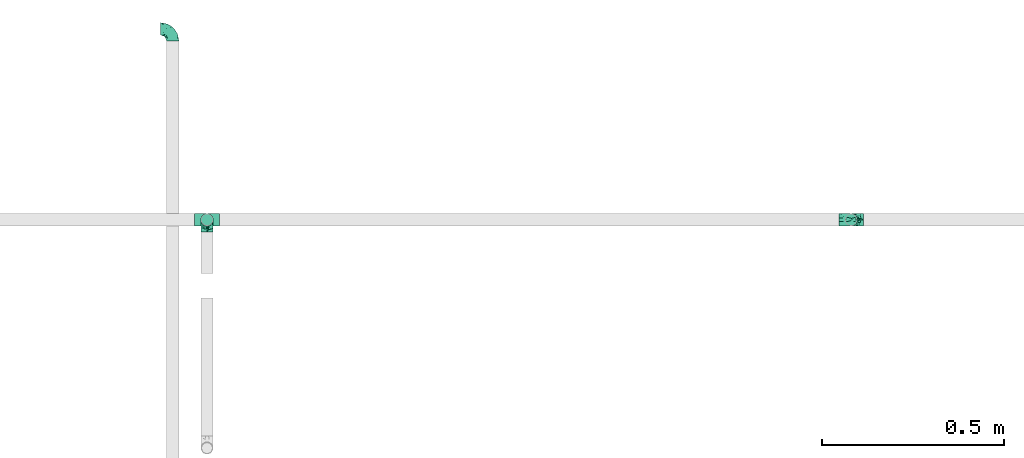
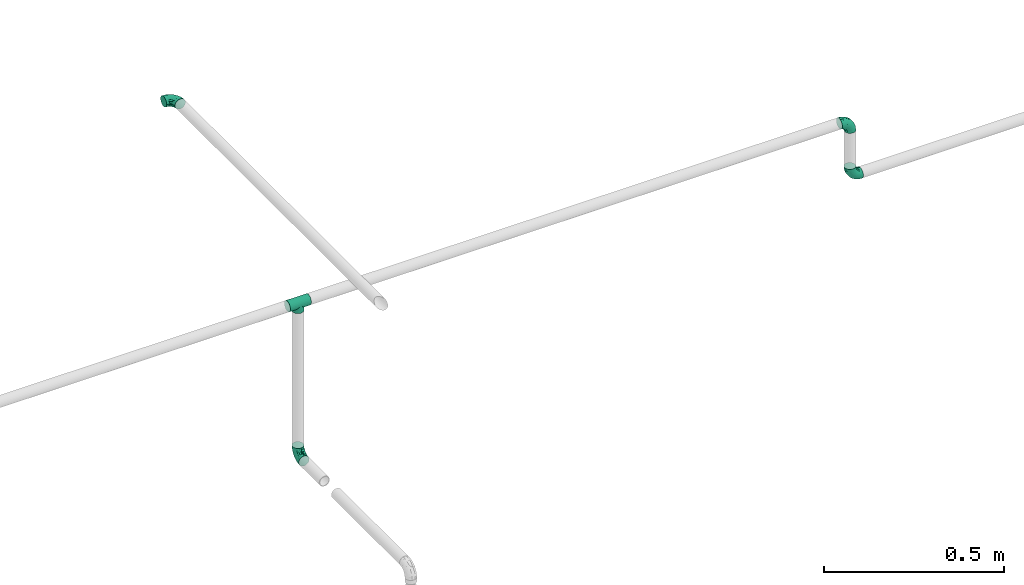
# One storey, part 15 of 17: 5 flow fittings.
"""IFC2X3 building model written with IfcOpenShell, lengths in millimetres."""

from ifc_helpers import new_model, entity, si_unit, converted_unit, derived_unit, direction, frame, origin_with_axes, place, context, subcontext, project, spatial, open_shell, surface_model, source, transform, mapped, type_object, element, save


model = new_model("IFC2X3")

# Units and contexts
model_context = context("Model", 3, precision=0.01, world=frame((0.0, 4.29681676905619e-09, 0.0)), true_north=direction((4.01073788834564e-13, 1.0)))
plan_context = context("Plan", 3, precision=0.01, world=frame((0.0, 4.29681676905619e-09, 0.0)), true_north=direction((4.01073788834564e-13, 1.0)))
body_context = subcontext(model_context, "Body", "Model", "MODEL_VIEW")
ifc_project = project(units=[converted_unit("PLANEANGLEUNIT", "DEGREE", entity("IfcPositiveLengthMeasure", 0.0174532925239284), si_unit("PLANEANGLEUNIT", "RADIAN"), dimensions=[0, 0, 0, 0, 0, 0, 0]), si_unit("AREAUNIT", "SQUARE_METRE"), si_unit("LENGTHUNIT", "METRE", prefix="MILLI"), si_unit("MASSUNIT", "GRAM", prefix="KILO"), si_unit("POWERUNIT", "WATT"), si_unit("PRESSUREUNIT", "PASCAL", prefix="KILO"), si_unit("FORCEUNIT", "NEWTON", prefix="KILO"), si_unit("ELECTRICVOLTAGEUNIT", "VOLT"), si_unit("ELECTRICCURRENTUNIT", "AMPERE"), si_unit("THERMODYNAMICTEMPERATUREUNIT", "DEGREE_CELSIUS"), si_unit("TIMEUNIT", "SECOND"), si_unit("VOLUMEUNIT", "CUBIC_METRE"), derived_unit("LINEARVELOCITYUNIT", [(si_unit("LENGTHUNIT", "METRE"), 1), (si_unit("TIMEUNIT", "SECOND"), -1)]), derived_unit("VOLUMETRICFLOWRATEUNIT", [(si_unit("VOLUMEUNIT", "CUBIC_METRE"), 1), (si_unit("TIMEUNIT", "SECOND"), -1)]), derived_unit("THERMALTRANSMITTANCEUNIT", [(si_unit("POWERUNIT", "WATT"), 1), (si_unit("THERMODYNAMICTEMPERATUREUNIT", "KELVIN"), -1), (si_unit("AREAUNIT", "SQUARE_METRE"), -1)]), derived_unit("SOUNDPRESSUREUNIT", [(si_unit("PRESSUREUNIT", "PASCAL"), 1)])], contexts=[model_context, plan_context])

# Site, building, storey
site_placement = place(None, frame((0.0, -4.29681676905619e-09, 0.0), z_axis=(0.0, 0.0, 1.0), x_axis=(1.0, 0.0, 0.0)))
site = spatial("IfcSite", under=ifc_project, at=site_placement, CompositionType="ELEMENT")
building_placement = place(site_placement, frame((0.0, 4.29681676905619e-09, 0.0), z_axis=(0.0, 0.0, 1.0), x_axis=(1.0, 0.0, 0.0)))
building = spatial("IfcBuilding", under=site, at=building_placement, Name="mc-building", CompositionType="ELEMENT")
storey_placement = place(building_placement, frame((0.0, 0.0, 204000.0), z_axis=(0.0, 0.0, 1.0), x_axis=(1.0, 0.0, 0.0)))
storey = spatial("IfcBuildingStorey", under=building, at=storey_placement, Name="Nivå D", CompositionType="ELEMENT", Elevation=204000.0)

# Flow fittings
pipe_fitting_type_1 = type_object("IfcPipeFittingType", Name="magi_pipe_fe_tee_centric_90_NOR", PredefinedType="JUNCTION")
shared_shape_1 = source(origin_with_axes(), body_context, "Body", "SurfaceModel", [
    surface_model("IfcShellBasedSurfaceModel", [(-33.8, 4.37404, -16.32415), (-33.8, 0.0, -16.9), (-33.8, 16.32415, -4.37404), (-33.8, 8.45, -14.63583), (-33.8, 11.9501, -11.9501), (-33.8, 14.63583, -8.45), (-33.8, -16.9, 0.0), (-33.8, -11.9501, -11.9501), (-33.8, -14.63583, -8.45), (-33.8, -8.45, -14.63583), (-33.8, -4.37404, -16.32415), (-33.8, -16.32415, -4.37404), (-33.8, 14.63583, 8.45), (-33.8, 16.32415, 4.37404), (-33.8, -8.45, 14.63583), (-33.8, 8.45, 14.63583), (-33.8, 11.9501, 11.9501), (-33.8, 4.37404, 16.32415), (-33.8, 0.0, 16.9), (-33.8, -11.9501, 11.9501), (-33.8, -14.63583, 8.45), (-33.8, -16.32415, 4.37404), (-33.8, -4.37404, 16.32415), (-33.8, 16.9, 0.0), (33.8, 4.37404, -16.32415), (33.8, -16.9, 0.0), (33.8, 0.0, -16.9), (33.8, 14.63583, -8.45), (33.8, 8.45, -14.63583), (33.8, 16.32415, -4.37404), (33.8, 11.9501, -11.9501), (33.8, -16.32415, 4.37404), (33.8, -8.45, -14.63583), (33.8, -4.37404, -16.32415), (33.8, -11.9501, -11.9501), (33.8, -14.63583, -8.45), (33.8, -16.32415, -4.37404), (33.8, 16.32415, 4.37404), (33.8, 8.45, 14.63583), (33.8, 14.63583, 8.45), (33.8, 11.9501, 11.9501), (33.8, -8.45, 14.63583), (33.8, 4.37404, 16.32415), (33.8, -14.63583, 8.45), (33.8, -11.9501, 11.9501), (33.8, 0.0, 16.9), (33.8, -4.37404, 16.32415), (33.8, 16.9, 0.0), (16.28698, -16.28698, 4.51047), (16.9, -16.9, 0.0), (14.62704, -14.62704, 8.4652), (9.47213, -9.47213, 13.99602), (12.26343, -12.26343, 11.62834), (-16.9, -16.9, 0.0), (-16.28698, -16.28698, 4.51047), (-14.62704, -14.62704, 8.4652), (-12.26343, -12.26343, 11.62834), (-9.47213, -9.47213, 13.99602), (-6.42894, -6.42894, 15.62942), (6.42894, -6.42894, 15.62942), (3.24522, -3.24522, 16.58549), (0.0, 0.0, 16.9), (-3.24522, -3.24522, 16.58549), (3.24522, -3.24522, -16.58549), (0.0, 0.0, -16.9), (-3.24522, -3.24522, -16.58549), (-6.42894, -6.42894, -15.62942), (6.42894, -6.42894, -15.62942), (9.47213, -9.47213, -13.99602), (12.26343, -12.26343, -11.62834), (14.62704, -14.62704, -8.4652), (16.28698, -16.28698, -4.51047), (-9.47213, -9.47213, -13.99602), (-12.26343, -12.26343, -11.62834), (-16.28698, -16.28698, -4.51047), (-14.62704, -14.62704, -8.4652), (4.37404, -25.35, -16.32415), (-16.9, -25.35, 0.0), (0.0, -25.35, -16.9), (14.63583, -25.35, -8.45), (8.45, -25.35, -14.63583), (16.32415, -25.35, -4.37404), (11.9501, -25.35, -11.9501), (-11.9501, -25.35, -11.9501), (-8.45, -25.35, -14.63583), (-4.37404, -25.35, -16.32415), (-14.63583, -25.35, -8.45), (-16.32415, -25.35, -4.37404), (16.9, -25.35, 0.0), (8.45, -25.35, 14.63583), (16.32415, -25.35, 4.37404), (14.63583, -25.35, 8.45), (-8.45, -25.35, 14.63583), (11.9501, -25.35, 11.9501), (4.37404, -25.35, 16.32415), (-16.32415, -25.35, 4.37404), (-11.9501, -25.35, 11.9501), (-14.63583, -25.35, 8.45), (0.0, -25.35, 16.9), (-4.37404, -25.35, 16.32415)], [open_shell([[[0, 1, 2]], [[3, 0, 4]], [[0, 2, 5]], [[4, 0, 5]], [[6, 2, 1]], [[7, 8, 9]], [[1, 10, 9]], [[11, 6, 8]], [[1, 9, 8]], [[1, 8, 6]], [[6, 12, 2]], [[12, 13, 2]], [[14, 12, 6]], [[12, 14, 15]], [[16, 12, 15]], [[17, 15, 18]], [[19, 14, 20]], [[21, 20, 14]], [[22, 18, 14]], [[14, 6, 21]], [[14, 18, 15]], [[23, 2, 13]], [[24, 25, 26]], [[27, 24, 28]], [[27, 29, 24]], [[27, 28, 30]], [[31, 25, 24]], [[26, 32, 33]], [[26, 34, 32]], [[35, 25, 36]], [[35, 34, 26]], [[25, 35, 26]], [[24, 29, 31]], [[29, 37, 38]], [[38, 37, 39]], [[38, 31, 29]], [[38, 39, 40]], [[41, 38, 42]], [[43, 41, 44]], [[41, 43, 31]], [[41, 45, 46]], [[41, 31, 38]], [[42, 45, 41]], [[29, 47, 37]], [[31, 43, 48]], [[25, 31, 49]], [[49, 31, 48]], [[43, 50, 48]], [[44, 41, 51]], [[50, 43, 52]], [[51, 52, 44]], [[52, 43, 44]], [[53, 54, 21]], [[53, 21, 6]], [[21, 54, 20]], [[54, 55, 20]], [[56, 57, 19]], [[19, 20, 56]], [[19, 57, 14]], [[56, 20, 55]], [[14, 57, 58]], [[51, 41, 59]], [[60, 45, 61]], [[59, 46, 60]], [[46, 59, 41]], [[60, 46, 45]], [[61, 45, 42]], [[39, 37, 13]], [[16, 38, 40]], [[12, 40, 39]], [[42, 38, 15]], [[23, 37, 47]], [[62, 61, 18]], [[62, 22, 58]], [[22, 62, 18]], [[58, 22, 14]], [[61, 17, 18]], [[42, 17, 61]], [[15, 17, 42]], [[15, 38, 16]], [[12, 16, 40]], [[13, 12, 39]], [[37, 23, 13]], [[5, 27, 30]], [[23, 47, 29]], [[30, 28, 3]], [[27, 2, 29]], [[26, 33, 63]], [[26, 64, 24]], [[64, 26, 63]], [[28, 24, 0]], [[64, 0, 24]], [[4, 30, 3]], [[2, 27, 5]], [[5, 30, 4]], [[2, 23, 29]], [[65, 66, 10]], [[1, 0, 64]], [[1, 65, 10]], [[66, 9, 10]], [[0, 3, 28]], [[1, 64, 65]], [[63, 33, 67]], [[32, 34, 68]], [[69, 68, 34]], [[35, 70, 69]], [[69, 34, 35]], [[32, 68, 67]], [[36, 25, 49]], [[36, 71, 35]], [[71, 36, 49]], [[35, 71, 70]], [[72, 9, 66]], [[72, 7, 9]], [[7, 72, 73]], [[7, 73, 8]], [[74, 53, 11]], [[75, 74, 8]], [[74, 11, 8]], [[11, 53, 6]], [[75, 8, 73]], [[32, 67, 33]], [[76, 77, 78]], [[79, 76, 80]], [[79, 81, 76]], [[79, 80, 82]], [[77, 76, 81]], [[78, 83, 84]], [[84, 85, 78]], [[86, 77, 87]], [[83, 78, 86]], [[77, 86, 78]], [[81, 88, 77]], [[89, 88, 90]], [[89, 90, 91]], [[92, 77, 89]], [[89, 91, 93]], [[92, 89, 94]], [[95, 96, 97]], [[96, 95, 92]], [[92, 98, 99]], [[95, 77, 92]], [[94, 98, 92]], [[89, 77, 88]], [[77, 95, 53]], [[54, 53, 95]], [[97, 96, 56]], [[96, 92, 57]], [[95, 97, 54]], [[58, 92, 99]], [[55, 54, 97]], [[56, 55, 97]], [[58, 57, 92]], [[98, 61, 62]], [[58, 99, 62]], [[56, 96, 57]], [[62, 99, 98]], [[94, 60, 98]], [[89, 59, 94]], [[91, 90, 48]], [[52, 93, 91]], [[93, 51, 89]], [[49, 90, 88]], [[59, 60, 94]], [[51, 59, 89]], [[49, 48, 90]], [[50, 52, 91]], [[48, 50, 91]], [[51, 93, 52]], [[98, 60, 61]], [[88, 81, 49]], [[71, 49, 81]], [[79, 82, 69]], [[82, 80, 68]], [[81, 79, 71]], [[67, 80, 76]], [[70, 71, 79]], [[69, 70, 79]], [[67, 68, 80]], [[78, 64, 63]], [[67, 76, 63]], [[69, 82, 68]], [[63, 76, 78]], [[85, 65, 78]], [[84, 66, 85]], [[86, 87, 74]], [[86, 73, 83]], [[72, 84, 83]], [[53, 87, 77]], [[66, 65, 85]], [[72, 66, 84]], [[53, 74, 87]], [[75, 73, 86]], [[74, 75, 86]], [[72, 83, 73]], [[78, 65, 64]]])]),
])
flow_fitting_placement = place(storey_placement, frame((598972.72783, 404678.7064, 2980.0), z_axis=(0.0, 1.0, 0.0), x_axis=(-1.0, 0.0, 0.0)))
element("IfcFlowFitting", 1, at=flow_fitting_placement, inside=storey, type_object=pipe_fitting_type_1, Name="magi_pipe_fe_tee_centric_90_NOR", context=body_context, shape_type="MappedRepresentation", body=[
    mapped(shared_shape_1, transform((0.0, 0.0, 0.0), scale=1.0)),
])
pipe_fitting_type_2 = type_object("IfcPipeFittingType", Name="magi_pipe_fe_elbow_short_001", PredefinedType="BEND")
shared_shape_2 = source(origin_with_axes(), body_context, "Body", "SurfaceModel", [
    surface_model("IfcShellBasedSurfaceModel", [(-33.8, 8.45, -14.63583), (-33.8, 4.37404, -16.32415), (-33.8, 11.9501, -11.9501), (-33.8, -11.9501, -11.9501), (-33.8, -14.63583, -8.45), (-33.8, -8.45, -14.63583), (-33.8, 0.0, -16.9), (-33.8, -4.37404, -16.32415), (-33.8, -4.37404, 16.32415), (-33.8, 0.0, 16.9), (-33.8, -8.45, 14.63583), (-33.8, 16.32415, -4.37404), (-33.8, 14.63583, -8.45), (-33.8, -16.32415, -4.37404), (-33.8, -16.9, 0.0), (-33.8, -16.32415, 4.37404), (-33.8, 11.9501, 11.9501), (-33.8, 14.63583, 8.45), (-33.8, 16.32415, 4.37404), (-33.8, 4.37404, 16.32415), (-33.8, 8.45, 14.63583), (-33.8, -14.63583, 8.45), (-33.8, -11.9501, 11.9501), (-33.8, 16.9, 0.0), (-11.9501, 33.8, -11.9501), (0.0, 33.8, -16.9), (-4.37404, 33.8, -16.32415), (-8.45, 33.8, -14.63583), (-14.63583, 33.8, -8.45), (-16.32415, 33.8, -4.37404), (14.63583, 33.8, -8.45), (8.45, 33.8, 14.63583), (16.32415, 33.8, -4.37404), (8.45, 33.8, -14.63583), (11.9501, 33.8, -11.9501), (4.37404, 33.8, -16.32415), (16.32415, 33.8, 4.37404), (16.9, 33.8, 0.0), (-11.9501, 33.8, 11.9501), (-16.32415, 33.8, 4.37404), (-14.63583, 33.8, 8.45), (-8.45, 33.8, 14.63583), (-4.37404, 33.8, 16.32415), (11.9501, 33.8, 11.9501), (14.63583, 33.8, 8.45), (0.0, 33.8, 16.9), (4.37404, 33.8, 16.32415), (-16.9, 33.8, 0.0), (-24.79389, -13.12945, 9.48721), (-22.19287, -9.75018, 12.59315), (-24.09897, -14.97035, 0.0), (-14.93934, -10.76256, 8.5297), (-22.46095, -14.75051, 5.27077), (14.75051, 22.46094, 5.27077), (11.9251, 13.23888, 4.33236), (13.04069, 14.39795, 0.0), (7.71387, 13.68847, 11.55891), (9.75018, 22.19287, 12.59315), (4.10169, 13.0571, 14.04018), (-24.84007, -6.39063, 15.2048), (-25.81779, -2.23879, 16.61097), (-23.66549, 2.59054, 16.87119), (-26.50418, 14.06512, 11.08152), (-24.21253, 17.66365, 7.72657), (-29.58514, 15.86957, 7.00283), (-6.17382, -7.5455, 0.0), (-13.23888, -11.9251, 4.33236), (-14.39795, -13.04069, 0.0), (-17.81434, 18.87373, 11.97104), (-6.30846, 29.15138, 15.82987), (-2.31622, 25.28002, 16.85849), (-29.23923, 10.23435, 13.77053), (-1.45439, -2.85688, 7.61475), (-0.28326, 0.34872, 10.09509), (-5.74484, -4.04709, 10.4122), (-4.41137, 11.31918, 16.59407), (-8.39727, 3.10034, 15.7812), (-1.72649, 9.1306, 15.53089), (-17.39909, 24.75344, 7.64977), (-26.19233, 20.0512, 0.0), (-28.14518, 17.29657, 4.25857), (-26.05147, 6.6281, 15.96447), (-5.87354, 16.61944, 16.86968), (-12.51807, 12.51807, 16.48937), (-10.06312, 7.38516, 16.81295), (-3.01882, 3.01882, 13.81718), (-13.0571, -4.10169, 14.04018), (-16.82553, -0.15166, 16.38038), (10.76256, 14.93934, 8.5297), (13.12945, 24.79389, 9.48721), (6.39063, 24.84007, 15.2048), (2.23879, 25.81779, 16.61097), (-13.68847, -7.71387, 11.55891), (14.97035, 24.09897, 0.0), (-7.30894, 22.89991, 16.09489), (-10.67958, 26.17414, 14.008), (-12.78295, 18.26924, 15.06066), (-13.88562, 22.45231, 12.93244), (-18.04944, 15.16501, 14.04434), (-23.11658, 20.08178, 4.02986), (-21.84989, 21.84989, 0.0), (-18.55817, 25.48277, 3.93065), (-13.95142, 26.94732, 11.03289), (-18.57098, 7.23906, 16.59756), (-16.58335, 4.14122, 16.89279), (-17.96666, 11.46709, 15.63151), (-9.84453, 17.54304, 16.18938), (0.15166, 16.82553, 16.38038), (-23.27207, 11.47201, 14.23154), (3.84842, 5.86994, 10.70473), (-8.0212, -7.54413, 7.93275), (1.00345, -2.19508, 4.57414), (5.13203, 3.01004, 5.90201), (5.24161, 1.7543, 2.53265), (8.70457, 7.04947, 3.99182), (-20.0512, 26.19233, 0.0), (8.4852, 8.76699, 7.09296), (-4.55488, -6.72064, 4.90681), (2.05031, -2.05031, 0.0), (7.5455, 6.17382, 0.0), (-26.75399, 2.1369, -16.845), (-14.61995, 24.73803, -11.27736), (-28.45274, -13.45335, -9.81895), (-26.00469, 6.63555, -15.96645), (-23.06726, 20.04573, -4.26202), (-13.80647, -4.26506, -14.17873), (-14.67501, -0.21081, -16.07388), (-6.7902, -0.2828, -13.8478), (-24.53586, 11.08096, -14.13417), (-26.72048, 14.00837, -11.05776), (10.0967, 24.44989, -12.75976), (5.83237, 21.40218, -15.03047), (6.66249, 28.54238, -15.38093), (-20.38182, 15.48705, -12.74596), (12.53268, 21.23441, -9.15363), (12.54494, 15.67504, -5.54878), (9.7522, 12.89279, -8.66343), (-15.65186, 19.64213, -13.01327), (-12.03528, 20.66498, -14.67665), (-15.61907, 15.61906, -14.83879), (-25.56551, -15.26206, 0.0), (-24.65452, -15.12934, -5.50955), (13.45335, 28.45274, -9.81895), (15.12934, 24.65452, -5.50955), (-7.35442, -8.31014, -5.65563), (-15.67504, -12.54494, -5.54878), (-24.44989, -10.0967, -12.75976), (0.16522, 0.41303, -9.71728), (-5.70658, -5.33066, -8.89288), (-5.13869, -2.37198, -11.53565), (-21.23441, -12.53268, -9.15363), (0.71146, 7.93863, -14.09382), (0.21081, 14.67501, -16.07388), (3.49291, 14.42772, -14.76381), (-24.89911, -2.13088, -16.591), (-28.54238, -6.66249, -15.38093), (-18.44386, -7.71663, -13.26957), (2.13088, 24.89911, -16.591), (-28.64342, 17.44413, -2.89318), (1.70017, -1.28722, -5.09504), (-16.57067, 26.81947, -7.36596), (-17.69055, 27.4263, -3.76405), (-12.89279, -9.7522, -8.66343), (-5.96611, 5.96611, -15.95814), (-20.53709, 20.09345, -8.28985), (-2.1369, 26.75399, -16.845), (-6.89872, 24.58781, -16.02578), (-10.60739, 26.53157, -13.98044), (-21.40218, -5.83237, -15.03047), (2.93192, 5.89627, -11.55917), (6.89393, 12.61842, -11.82233), (5.58056, 5.95325, -8.79455), (-3.99512, 18.61798, -16.89635), (8.31014, 7.35442, -5.65563), (-9.1383, 9.86148, -16.89041), (-9.99983, 16.02119, -16.39699), (-16.68576, 9.78031, -16.34199), (-27.01915, 16.61158, -7.12979), (15.26206, 25.56551, 0.0), (-18.61798, 3.99512, -16.89635), (-19.37495, 27.82495, 0.0), (-12.61842, -6.89393, -11.82233), (-18.84705, 19.14018, -10.96545)], [open_shell([[[0, 1, 2]], [[3, 4, 5]], [[6, 7, 5]], [[8, 9, 10]], [[1, 6, 2]], [[11, 12, 2]], [[4, 2, 6]], [[2, 13, 10]], [[5, 4, 6]], [[2, 4, 13]], [[14, 15, 13]], [[11, 2, 16]], [[11, 17, 18]], [[11, 16, 17]], [[19, 20, 16]], [[16, 2, 10]], [[19, 16, 10]], [[21, 22, 15]], [[22, 13, 15]], [[22, 10, 13]], [[10, 9, 19]], [[11, 18, 23]], [[24, 25, 26]], [[24, 26, 27]], [[24, 28, 29]], [[25, 24, 30]], [[31, 32, 24]], [[33, 30, 34]], [[33, 35, 25]], [[25, 30, 33]], [[32, 30, 24]], [[32, 36, 37]], [[38, 24, 29]], [[39, 40, 29]], [[40, 38, 29]], [[38, 41, 42]], [[38, 31, 24]], [[31, 38, 42]], [[36, 43, 44]], [[36, 32, 43]], [[31, 45, 46]], [[32, 31, 43]], [[42, 45, 31]], [[39, 29, 47]], [[22, 48, 49]], [[15, 14, 50]], [[51, 48, 52]], [[53, 54, 55]], [[48, 22, 21]], [[15, 52, 21]], [[56, 57, 58]], [[49, 10, 22]], [[49, 59, 10]], [[9, 60, 61]], [[62, 63, 64]], [[65, 66, 67]], [[57, 43, 31]], [[62, 68, 63]], [[42, 69, 70]], [[20, 71, 16]], [[8, 60, 9]], [[72, 73, 74]], [[75, 76, 77]], [[16, 62, 17]], [[40, 39, 78]], [[79, 23, 80]], [[64, 18, 17]], [[9, 61, 19]], [[19, 81, 20]], [[82, 83, 84]], [[74, 85, 86]], [[59, 86, 87]], [[88, 89, 57]], [[90, 31, 46]], [[44, 53, 36]], [[46, 45, 91]], [[54, 53, 88]], [[44, 89, 53]], [[92, 86, 49]], [[89, 44, 43]], [[10, 59, 8]], [[53, 55, 93]], [[93, 36, 53]], [[66, 52, 67]], [[94, 82, 70]], [[95, 96, 94]], [[97, 98, 96]], [[79, 99, 100]], [[41, 38, 95]], [[101, 100, 99]], [[68, 78, 63]], [[42, 41, 69]], [[23, 18, 80]], [[95, 94, 69]], [[78, 101, 99]], [[38, 102, 95]], [[70, 45, 42]], [[97, 95, 102]], [[15, 50, 52]], [[90, 57, 31]], [[57, 90, 58]], [[81, 19, 61]], [[103, 104, 84]], [[105, 81, 103]], [[38, 40, 102]], [[106, 96, 83]], [[94, 106, 82]], [[91, 70, 107]], [[71, 62, 16]], [[62, 108, 98]], [[86, 59, 49]], [[67, 52, 50]], [[60, 59, 87]], [[92, 49, 51]], [[86, 85, 76]], [[91, 90, 46]], [[37, 36, 93]], [[107, 77, 58]], [[107, 58, 90]], [[58, 85, 109]], [[110, 74, 92]], [[72, 74, 110]], [[66, 51, 52]], [[72, 111, 112]], [[113, 114, 112]], [[56, 88, 57]], [[52, 48, 21]], [[49, 48, 51]], [[57, 89, 43]], [[53, 89, 88]], [[103, 81, 61]], [[71, 81, 108]], [[18, 64, 80]], [[63, 78, 99]], [[47, 115, 101]], [[101, 115, 100]], [[40, 78, 102]], [[68, 102, 78]], [[97, 96, 95]], [[105, 98, 108]], [[103, 84, 83]], [[107, 70, 82]], [[76, 84, 87]], [[82, 84, 75]], [[70, 91, 45]], [[90, 91, 107]], [[59, 60, 8]], [[61, 60, 87]], [[73, 85, 74]], [[109, 112, 116]], [[103, 61, 104]], [[105, 103, 83]], [[96, 105, 83]], [[81, 105, 108]], [[96, 98, 105]], [[62, 98, 68]], [[61, 87, 104]], [[87, 84, 104]], [[86, 76, 87]], [[77, 76, 85]], [[58, 77, 85]], [[75, 77, 107]], [[82, 75, 107]], [[76, 75, 84]], [[81, 71, 20]], [[62, 71, 108]], [[95, 69, 41]], [[70, 69, 94]], [[62, 64, 17]], [[80, 63, 99]], [[63, 80, 64]], [[80, 99, 79]], [[66, 65, 117]], [[110, 66, 117]], [[112, 114, 116]], [[118, 117, 65]], [[110, 92, 51]], [[112, 111, 113]], [[119, 55, 54]], [[74, 86, 92]], [[58, 109, 56]], [[116, 56, 109]], [[66, 110, 51]], [[72, 110, 117]], [[111, 72, 117]], [[73, 112, 109]], [[117, 118, 111]], [[113, 111, 118]], [[118, 119, 113]], [[114, 119, 54]], [[119, 114, 113]], [[116, 54, 88]], [[54, 116, 114]], [[116, 88, 56]], [[112, 73, 72]], [[85, 73, 109]], [[78, 39, 101]], [[47, 101, 39]], [[102, 68, 97]], [[97, 68, 98]], [[82, 106, 83]], [[94, 96, 106]], [[1, 120, 6]], [[28, 24, 121]], [[3, 122, 4]], [[0, 123, 1]], [[100, 124, 79]], [[125, 126, 127]], [[128, 2, 129]], [[130, 131, 132]], [[128, 129, 133]], [[134, 135, 136]], [[137, 138, 139]], [[128, 0, 2]], [[67, 140, 141]], [[134, 142, 143]], [[141, 13, 4]], [[144, 65, 145]], [[146, 3, 5]], [[147, 148, 149]], [[145, 141, 150]], [[151, 152, 153]], [[154, 7, 6]], [[5, 155, 146]], [[150, 146, 156]], [[155, 5, 7]], [[143, 135, 134]], [[35, 157, 25]], [[23, 79, 158]], [[148, 159, 144]], [[160, 161, 29]], [[145, 162, 144]], [[163, 152, 151]], [[29, 28, 160]], [[121, 164, 160]], [[33, 34, 130]], [[25, 165, 26]], [[26, 165, 166]], [[142, 34, 30]], [[24, 27, 167]], [[124, 161, 164]], [[157, 35, 132]], [[155, 154, 168]], [[123, 0, 128]], [[169, 170, 171]], [[172, 157, 152]], [[26, 166, 27]], [[132, 35, 33]], [[142, 130, 34]], [[168, 154, 126]], [[136, 135, 173]], [[133, 137, 139]], [[2, 12, 129]], [[170, 131, 130]], [[30, 32, 143]], [[172, 174, 175]], [[176, 123, 128]], [[158, 177, 11]], [[135, 55, 119]], [[167, 27, 166]], [[175, 166, 172]], [[137, 167, 138]], [[122, 141, 4]], [[140, 14, 13]], [[32, 37, 178]], [[170, 130, 134]], [[152, 157, 131]], [[165, 157, 172]], [[153, 170, 151]], [[152, 163, 174]], [[168, 125, 156]], [[122, 146, 150]], [[120, 154, 6]], [[179, 174, 126]], [[179, 126, 154]], [[126, 163, 127]], [[162, 145, 150]], [[140, 13, 141]], [[32, 178, 143]], [[55, 143, 178]], [[177, 129, 12]], [[128, 133, 139]], [[176, 128, 139]], [[120, 123, 179]], [[121, 160, 28]], [[161, 100, 180]], [[166, 175, 138]], [[121, 24, 167]], [[161, 47, 29]], [[79, 124, 158]], [[124, 164, 177]], [[161, 124, 100]], [[136, 171, 170]], [[127, 163, 151]], [[147, 171, 159]], [[148, 144, 162]], [[127, 151, 169]], [[127, 181, 125]], [[129, 177, 164]], [[12, 11, 177]], [[159, 65, 144]], [[67, 141, 145]], [[143, 55, 135]], [[135, 119, 173]], [[123, 120, 1]], [[154, 120, 179]], [[157, 165, 25]], [[166, 165, 172]], [[172, 152, 174]], [[176, 139, 175]], [[126, 174, 163]], [[176, 174, 179]], [[174, 176, 175]], [[123, 176, 179]], [[150, 181, 162]], [[127, 149, 181]], [[181, 148, 162]], [[159, 148, 147]], [[171, 136, 173]], [[170, 134, 136]], [[159, 171, 173]], [[171, 147, 169]], [[169, 147, 149]], [[151, 170, 169]], [[164, 182, 129]], [[182, 121, 137]], [[181, 149, 148]], [[169, 149, 127]], [[182, 137, 133]], [[167, 137, 121]], [[166, 138, 167]], [[175, 139, 138]], [[129, 182, 133]], [[121, 182, 164]], [[161, 160, 164]], [[47, 161, 180]], [[177, 158, 124]], [[23, 158, 11]], [[130, 132, 33]], [[157, 132, 131]], [[143, 142, 30]], [[130, 142, 134]], [[154, 155, 7]], [[146, 155, 168]], [[146, 122, 3]], [[141, 122, 150]], [[152, 131, 153]], [[159, 119, 118]], [[67, 145, 65]], [[170, 153, 131]], [[119, 159, 173]], [[159, 118, 65]], [[156, 125, 181]], [[126, 125, 168]], [[150, 156, 181]], [[168, 156, 146]]])]),
])
for number, where, z_axis, x_axis, name in (
    (2, (600746.52783, 404678.69355, 2980.0), (-1.09999999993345e-05, -0.9999999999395, 0.0), (0.0, 0.0, 1.0), "magi_pipe_fe_elbow_short_001"),
    (3, (598972.72783, 404678.7064, 2463.04800000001), (-1.0, 0.0, 0.0), (0.0, 0.0, -1.0), "magi_pipe_fe_elbow_short_001"),
    (4, (598878.66879, 405204.64073, 3390.0), (0.0, 0.0, 1.0), (0.0, 1.0, 0.0), "magi_pipe_fe_elbow_short_001"),
    (5, (600746.52783, 404678.69358, 2790.0), (0.0, -1.0, 0.0), (0.0, 0.0, -1.0), "magi_pipe_fe_elbow_short_001"),
):
    element("IfcFlowFitting", number, at=place(storey_placement, frame(where, z_axis=z_axis, x_axis=x_axis)), inside=storey, type_object=pipe_fitting_type_2, Name=name, context=body_context, shape_type="MappedRepresentation", body=[
        mapped(shared_shape_2, transform((0.0, 0.0, 0.0), scale=1.0)),
    ])

save(model, "model.ifc")
